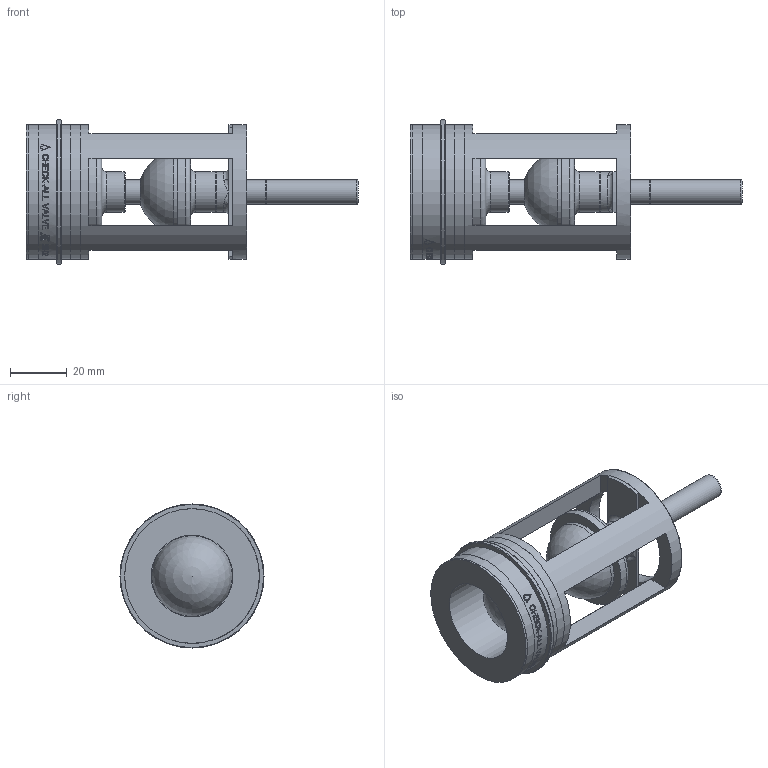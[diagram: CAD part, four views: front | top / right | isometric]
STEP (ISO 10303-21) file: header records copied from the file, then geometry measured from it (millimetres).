
FILE_DESCRIPTION(/* description */ ('Unknown'),/* implementation_level */ '2;1');
FILE_NAME(/* name */ '3SK',/* time_stamp */ '2024-07-31T15:52:10-05:00',/* author */ ('Unknown'),/* organization */ ('Unknown'),/* preprocessor_version */ 'ST-DEVELOPER v19.4',/* originating_system */ 'Solid Edge',/* authorisation */ 'Unknown');
FILE_SCHEMA (('AUTOMOTIVE_DESIGN {1 0 10303 214 3 1 1}'));
Length unit declared in the file: millimetre
Products named in the file (1): 3SK
Bounding box: 117.01 x 50.8 x 50.8 mm (x, y, z)
Volume: 65803.2 mm3; surface area: 24872.5 mm2
Topology: 1 solids, 1 shells, 332 faces, 838 edges, 548 vertices
Faces by surface type: plane 158, bspline 102, cylinder 57, torus 13, sphere 2
Full cylindrical faces by diameter (mm): 8.56 x3, 8.585 x1, 14.3 x3, 28.346 x1, 28.829 x1, 35.281 x2, 35.306 x1, 47.473 x4, 47.498 x2, 50.8 x1
Entity records: 15798 total; most frequent: CARTESIAN_POINT 7193, ORIENTED_EDGE 1572, EDGE_CURVE 786, DIRECTION 684, B_SPLINE_CURVE_WITH_KNOTS 648, VERTEX_POINT 539, EDGE_LOOP 427, FACE_BOUND 427
